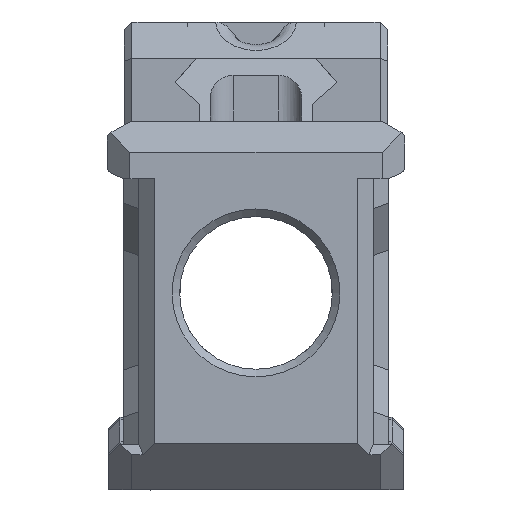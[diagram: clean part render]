
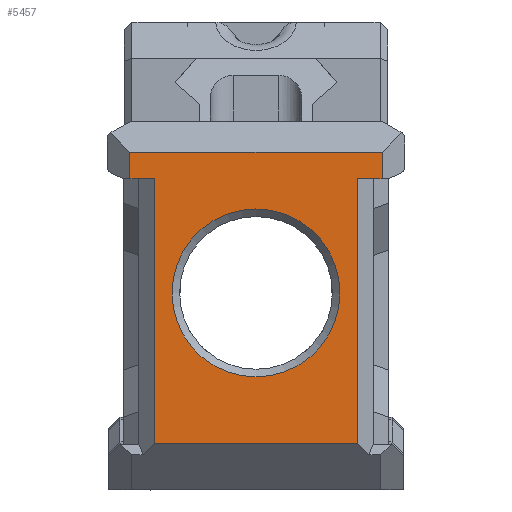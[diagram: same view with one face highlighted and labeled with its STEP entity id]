
A CAD part, front view. The second image highlights one B-rep face of the part: STEP entity #5457.
In plain terms, the highlighted planar face has unit normal (0, -1, 0).
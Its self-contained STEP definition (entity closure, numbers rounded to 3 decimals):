
#5375=CARTESIAN_POINT('',(0.,46.,0.));
#5376=DIRECTION('',(0.,1.,0.));
#5377=DIRECTION('',(0.,0.,1.));
#5378=AXIS2_PLACEMENT_3D('',#5375,#5376,#5377);
#5379=PLANE('',#5378);
#5380=CARTESIAN_POINT('',(16.51,46.,23.429));
#5381=VERTEX_POINT('',#5380);
#5382=CARTESIAN_POINT('',(-16.51,46.,23.429));
#5383=VERTEX_POINT('',#5382);
#5384=CARTESIAN_POINT('',(16.51,46.,23.429));
#5385=DIRECTION('',(-1.,-0.,0.));
#5386=VECTOR('',#5385,33.02);
#5387=LINE('',#5384,#5386);
#5388=EDGE_CURVE('',#5381,#5383,#5387,.T.);
#5389=ORIENTED_EDGE('',*,*,#5388,.T.);
#5390=CARTESIAN_POINT('',(-16.51,46.,19.947));
#5391=VERTEX_POINT('',#5390);
#5392=CARTESIAN_POINT('',(-16.51,46.,23.429));
#5393=DIRECTION('',(-0.,-0.,-1.));
#5394=VECTOR('',#5393,3.482);
#5395=LINE('',#5392,#5394);
#5396=EDGE_CURVE('',#5383,#5391,#5395,.T.);
#5397=ORIENTED_EDGE('',*,*,#5396,.T.);
#5398=CARTESIAN_POINT('',(-13.329,46.,19.947));
#5399=VERTEX_POINT('',#5398);
#5400=CARTESIAN_POINT('',(-13.329,46.,19.947));
#5401=DIRECTION('',(-1.,-0.,0.));
#5402=VECTOR('',#5401,3.182);
#5403=LINE('',#5400,#5402);
#5404=EDGE_CURVE('',#5399,#5391,#5403,.T.);
#5405=ORIENTED_EDGE('',*,*,#5404,.F.);
#5406=CARTESIAN_POINT('',(-13.329,46.,-14.781));
#5407=VERTEX_POINT('',#5406);
#5408=CARTESIAN_POINT('',(-13.329,46.,19.947));
#5409=DIRECTION('',(-0.,-0.,-1.));
#5410=VECTOR('',#5409,34.728);
#5411=LINE('',#5408,#5410);
#5412=EDGE_CURVE('',#5399,#5407,#5411,.T.);
#5413=ORIENTED_EDGE('',*,*,#5412,.T.);
#5414=CARTESIAN_POINT('',(13.329,46.,-14.781));
#5415=VERTEX_POINT('',#5414);
#5416=CARTESIAN_POINT('',(13.329,46.,-14.781));
#5417=DIRECTION('',(-1.,-0.,0.));
#5418=VECTOR('',#5417,26.657);
#5419=LINE('',#5416,#5418);
#5420=EDGE_CURVE('',#5415,#5407,#5419,.T.);
#5421=ORIENTED_EDGE('',*,*,#5420,.F.);
#5422=CARTESIAN_POINT('',(13.329,46.,19.947));
#5423=VERTEX_POINT('',#5422);
#5424=CARTESIAN_POINT('',(13.329,46.,-14.781));
#5425=DIRECTION('',(0.,0.,1.));
#5426=VECTOR('',#5425,34.728);
#5427=LINE('',#5424,#5426);
#5428=EDGE_CURVE('',#5415,#5423,#5427,.T.);
#5429=ORIENTED_EDGE('',*,*,#5428,.T.);
#5430=CARTESIAN_POINT('',(16.51,46.,19.947));
#5431=VERTEX_POINT('',#5430);
#5432=CARTESIAN_POINT('',(13.329,46.,19.947));
#5433=DIRECTION('',(1.,0.,-0.));
#5434=VECTOR('',#5433,3.182);
#5435=LINE('',#5432,#5434);
#5436=EDGE_CURVE('',#5423,#5431,#5435,.T.);
#5437=ORIENTED_EDGE('',*,*,#5436,.T.);
#5438=CARTESIAN_POINT('',(16.51,46.,19.947));
#5439=DIRECTION('',(0.,0.,1.));
#5440=VECTOR('',#5439,3.482);
#5441=LINE('',#5438,#5440);
#5442=EDGE_CURVE('',#5431,#5381,#5441,.T.);
#5443=ORIENTED_EDGE('',*,*,#5442,.T.);
#5444=EDGE_LOOP('',(#5389,#5397,#5405,#5413,#5421,#5429,#5437,#5443));
#5445=FACE_BOUND('',#5444,.T.);
#5446=CARTESIAN_POINT('',(-0.,46.,-6.));
#5447=VERTEX_POINT('',#5446);
#5448=CARTESIAN_POINT('',(0.,46.,5.));
#5449=DIRECTION('',(-0.,1.,-0.));
#5450=DIRECTION('',(0.,0.,-1.));
#5451=AXIS2_PLACEMENT_3D('',#5448,#5449,#5450);
#5452=CIRCLE('',#5451,11.);
#5453=EDGE_CURVE('',#5447,#5447,#5452,.T.);
#5454=ORIENTED_EDGE('',*,*,#5453,.T.);
#5455=EDGE_LOOP('',(#5454));
#5456=FACE_BOUND('',#5455,.T.);
#5457=ADVANCED_FACE('',(#5445,#5456),#5379,.F.);
